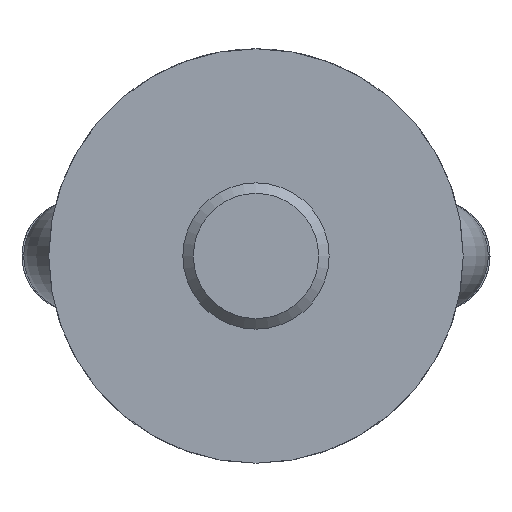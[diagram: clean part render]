
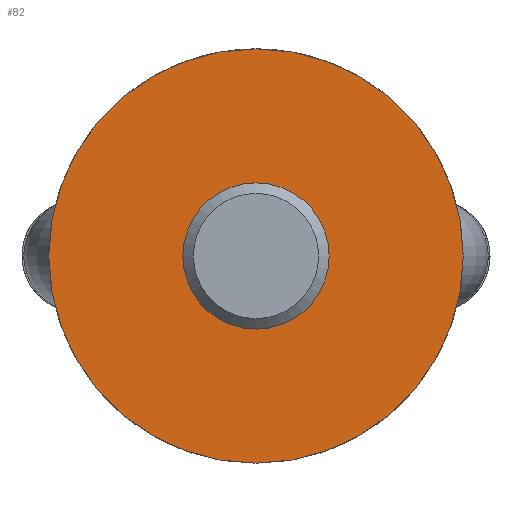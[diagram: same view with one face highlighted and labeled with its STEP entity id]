
A CAD part, front view. The second image highlights one B-rep face of the part: STEP entity #82.
In plain terms, the highlighted planar face has unit normal (0, -1, 0).
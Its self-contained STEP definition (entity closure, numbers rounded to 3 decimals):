
#82 = ADVANCED_FACE( '', ( #121, #122 ), #123, .F. );
#121 = FACE_BOUND( '', #189, .T. );
#122 = FACE_OUTER_BOUND( '', #190, .T. );
#123 = PLANE( '', #191 );
#189 = EDGE_LOOP( '', ( #306 ) );
#190 = EDGE_LOOP( '', ( #307 ) );
#191 = AXIS2_PLACEMENT_3D( '', #308, #309, #310 );
#306 = ORIENTED_EDGE( '', *, *, #458, .T. );
#307 = ORIENTED_EDGE( '', *, *, #459, .T. );
#308 = CARTESIAN_POINT( '', ( 42.5, 0., 0. ) );
#309 = DIRECTION( '', ( 0., 1., 0. ) );
#310 = DIRECTION( '', ( 0., 0., 1. ) );
#458 = EDGE_CURVE( '', #535, #535, #536, .T. );
#459 = EDGE_CURVE( '', #537, #537, #538, .T. );
#535 = VERTEX_POINT( '', #990 );
#536 = CIRCLE( '', #991, 15. );
#537 = VERTEX_POINT( '', #992 );
#538 = CIRCLE( '', #993, 42.5 );
#990 = CARTESIAN_POINT( '', ( 0., 0., 15. ) );
#991 = AXIS2_PLACEMENT_3D( '', #1050, #1051, #1052 );
#992 = CARTESIAN_POINT( '', ( 0., 0., -42.5 ) );
#993 = AXIS2_PLACEMENT_3D( '', #1053, #1054, #1055 );
#1050 = CARTESIAN_POINT( '', ( 0., 0., 0. ) );
#1051 = DIRECTION( '', ( 0., 1., 0. ) );
#1052 = DIRECTION( '', ( 0., 0., 1. ) );
#1053 = CARTESIAN_POINT( '', ( 0., 0., 0. ) );
#1054 = DIRECTION( '', ( 0., -1., 0. ) );
#1055 = DIRECTION( '', ( 0., 0., -1. ) );
